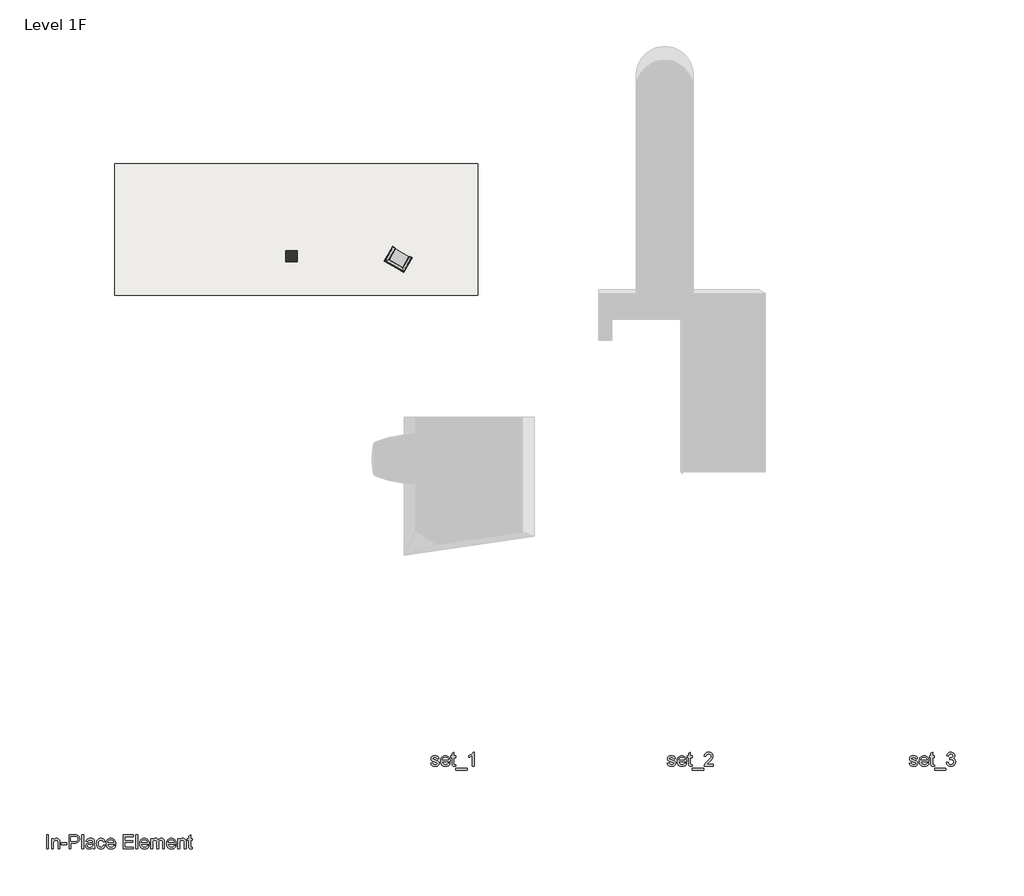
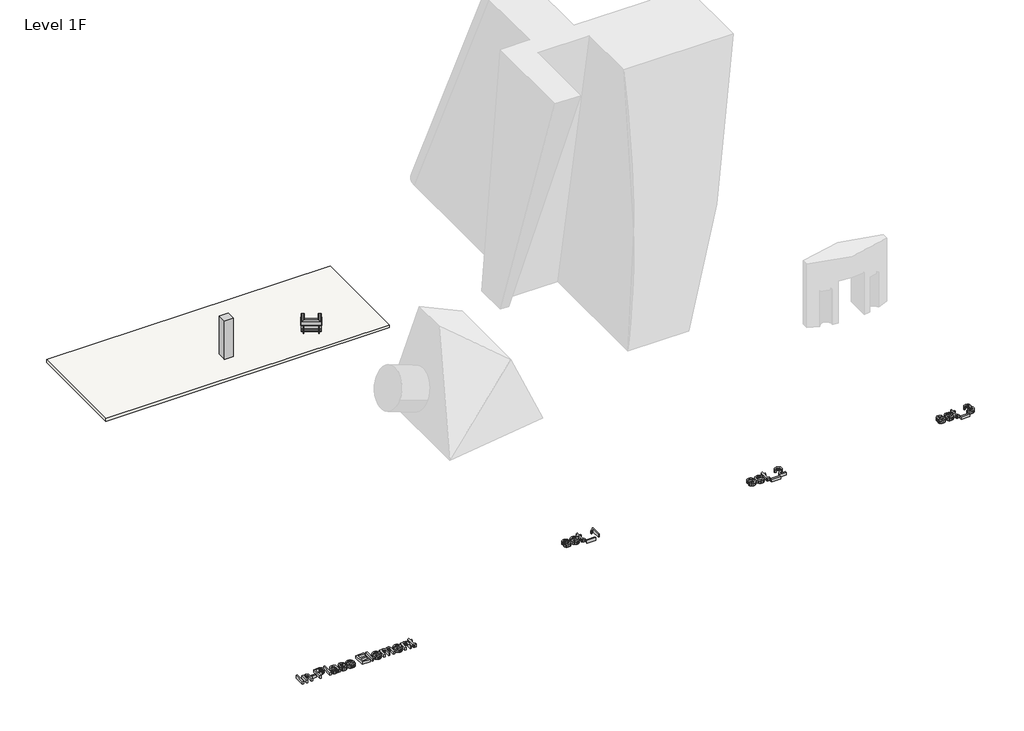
# One storey, part 1 of 2: 4 proxies, 1 column, 1 furniture element, 1 slab.
"""IFC4 building model written with IfcOpenShell, lengths in millimetres."""

from ifc_helpers import new_model, si_unit, frame, origin, place, context, project, spatial, polyline, outline, extrude, transform, mapped, element, save
from components import m_chair_corbu_m_chair_corbu_62085674

model = new_model("IFC4")

# Units and contexts
model_context = context("Model", 3, world=origin())
ifc_project = project(units=[si_unit("LENGTHUNIT", "METRE", prefix="MILLI")], contexts=[model_context])

# Site, building, storey
site = spatial("IfcSite", under=ifc_project)
building = spatial("IfcBuilding", under=site)
storey = spatial("IfcBuildingStorey", under=building, Name="Level 1F", Elevation=100.0)

# Proxies
placement = place(None, origin())
element("IfcBuildingElementProxy", 1, Name="600mm Arial", ObjectType="600mm Arial", at=placement, inside=storey, context=model_context, shape_type="SweptSolid", body=[
    extrude(outline(polyline([(5751.7474267, -32429.7363804), (5825.5935805, -32420.5056111), (5830.0557199, -32437.3445535), (5837.2402151, -32452.0921496), (5847.1470661, -32464.7483996), (5859.7762728, -32475.3133035), (5875.163893, -32483.6426304), (5893.3459844, -32489.5921496), (5938.0935805, -32494.351765), (5982.3003113, -32489.9887842), (5999.4818017, -32484.5350583), (6013.382042, -32476.8998419), (6031.7714651, -32457.9334958), (6037.9012728, -32435.9383035), (6036.3598065, -32425.9683515), (6031.7354074, -32417.1161881), (6013.2378113, -32402.7652265), (5985.5815613, -32393.3902265), (5937.2281959, -32381.7075342), (5869.836369, -32362.2183515), (5826.0262728, -32345.5777265), (5797.883244, -32327.4226785), (5777.492619, -32303.3902265), (5765.1068017, -32275.0128227), (5760.9781959, -32243.8229188), (5764.2955036, -32215.21114), (5774.2474267, -32188.7988804), (5789.9325228, -32165.6318131), (5810.4493497, -32146.7556111), (5830.8399747, -32134.8746015), (5857.3964651, -32124.9046496), (5888.0995901, -32118.1438323), (5920.930119, -32115.8902265), (5968.9950228, -32119.5140246), (6010.7858882, -32130.3854188), (6044.3916574, -32147.4407073), (6067.9012728, -32169.6161881), (6083.4781959, -32198.5524861), (6093.2858882, -32235.8902265), (6019.4397344, -32245.1209958), (6010.1188209, -32221.8818131), (5991.6753113, -32204.3758035), (5963.928917, -32193.3962361), (5926.6993497, -32189.7363804), (5884.2955036, -32193.2339765), (5856.0262728, -32203.726765), (5840.1248305, -32218.8709958), (5834.8243497, -32236.3229188), (5837.023869, -32247.6810919), (5843.6224267, -32257.8133035), (5854.9084844, -32266.8637842), (5871.1705036, -32274.1113804), (5934.7762728, -32289.8325342), (6043.1656959, -32324.5921496), (6071.7955036, -32341.2147458), (6093.5022344, -32363.9671496), (6107.1861286, -32392.9214765), (6111.7474267, -32428.1498419), (6106.3928594, -32464.5681111), (6090.3291574, -32498.8229188), (6064.1693017, -32528.2279669), (6028.5262728, -32550.0969573), (5985.4733882, -32563.6726785), (5937.0839651, -32568.1979188), (5897.3393738, -32566.0164285), (5862.6248305, -32559.4719573), (5832.9403353, -32548.5645054), (5808.2858882, -32533.2940727), (5788.147667, -32513.7327746), (5772.0118497, -32489.9527265), (5759.8784363, -32461.9539285), (5751.7474267, -32429.7363804)])), frame((0.0, 0.0, 100.0), z_axis=(0.0, 0.0, 1.0), x_axis=(1.0, 0.0, 0.0)), (0.0, 0.0, 1.0), 150.0),
    extrude(outline(polyline([(6498.5743497, -32429.7363804), (6570.9781959, -32438.9671496), (6559.8769339, -32467.9665486), (6544.8904555, -32493.5224381), (6526.0187608, -32515.6348179), (6503.2618497, -32534.3036881), (6476.8540973, -32549.132414), (6447.0298786, -32559.7243611), (6413.7891935, -32566.0795294), (6377.132042, -32568.1979188), (6331.3117295, -32564.5425703), (6290.4854074, -32553.5765246), (6254.6530757, -32535.2997818), (6223.8147344, -32509.7123419), (6199.0160565, -32477.5263443), (6181.3027151, -32439.4539285), (6170.6747103, -32395.4950943), (6167.132042, -32345.6498419), (6170.710768, -32294.1143852), (6181.4469459, -32248.6907073), (6199.3405757, -32209.3788083), (6224.3916574, -32176.1786881), (6255.148869, -32149.8024861), (6290.1608882, -32130.9623419), (6329.4277151, -32119.6582554), (6372.9493497, -32115.8902265), (6415.0692416, -32119.649241), (6453.1596863, -32130.9262842), (6487.2206839, -32149.7213563), (6517.2522344, -32176.0344573), (6541.7669579, -32209.1624621), (6559.2774747, -32248.4022458), (6569.7837848, -32293.7538083), (6573.2858882, -32345.2171496), (6572.8531959, -32365.1209958), (6240.9781959, -32365.1209958), (6245.2555396, -32394.5891448), (6253.7606478, -32420.3974381), (6266.4935204, -32442.5458756), (6283.4541574, -32461.0344573), (6303.7050589, -32475.6107794), (6326.3087247, -32486.0224381), (6351.265155, -32492.2694333), (6378.5743497, -32494.351765), (6417.8772344, -32490.4935919), (6450.9781959, -32478.9190727), (6477.8772344, -32458.9070535), (6498.5743497, -32429.7363804)]), holes=[polyline([(6240.9781959, -32291.2748419), (6499.4397344, -32291.2748419), (6489.4517536, -32252.2604188), (6480.8610084, -32236.9178708), (6469.8724267, -32224.351765), (6449.7342055, -32209.2075342), (6426.819542, -32198.3902265), (6401.1284363, -32191.8998419), (6372.6608882, -32189.7363804), (6346.6948425, -32191.4626424), (6322.883244, -32196.6414285), (6301.2260925, -32205.2727385), (6281.7233882, -32217.3565727), (6265.3577031, -32232.3340366), (6253.1116094, -32249.6462361), (6244.9851069, -32269.2931712), (6240.9781959, -32291.2748419)])]), frame((0.0, 0.0, 100.0), z_axis=(0.0, 0.0, 1.0), x_axis=(1.0, 0.0, 0.0)), (0.0, 0.0, 1.0), 150.0),
    extrude(outline(polyline([(6804.055119, -32497.3806111), (6813.2858882, -32561.1306111), (6758.0455036, -32568.1979188), (6722.600792, -32565.133015), (6696.1705036, -32555.9383035), (6677.492619, -32541.7676304), (6665.305119, -32523.7748419), (6658.5983882, -32492.8733996), (6656.3628113, -32439.976765), (6656.3628113, -32198.9671496), (6600.9781959, -32198.9671496), (6600.9781959, -32125.1209958), (6656.3628113, -32125.1209958), (6656.3628113, -32019.6883035), (6730.2089651, -31976.2748419), (6730.2089651, -32125.1209958), (6804.055119, -32125.1209958), (6804.055119, -32198.9671496), (6730.2089651, -32198.9671496), (6730.2089651, -32437.8133035), (6734.1031959, -32475.8902265), (6746.7233882, -32489.3758035), (6757.3784363, -32493.1077746), (6771.8916574, -32494.351765), (6804.055119, -32497.3806111)])), frame((0.0, 0.0, 100.0), z_axis=(0.0, 0.0, 1.0), x_axis=(1.0, 0.0, 0.0)), (0.0, 0.0, 1.0), 150.0),
    extrude(outline(polyline([(6813.2858882, -32725.1209958), (6813.2858882, -32651.2748419), (7293.2858882, -32651.2748419), (7293.2858882, -32725.1209958), (6813.2858882, -32725.1209958)])), frame((0.0, 0.0, 100.0), z_axis=(0.0, 0.0, 1.0), x_axis=(1.0, 0.0, 0.0)), (0.0, 0.0, 1.0), 150.0),
    extrude(outline(polyline([(7588.6705036, -32558.9671496), (7514.8243497, -32558.9671496), (7514.8243497, -32098.5825342), (7483.9950228, -32123.5164285), (7444.8724267, -32148.414265), (7403.8027151, -32170.1750823), (7367.132042, -32185.6979188), (7367.132042, -32115.8902265), (7425.1308401, -32084.3397458), (7475.3772344, -32046.8036881), (7514.9866094, -32006.8878227), (7541.0743497, -31968.1979188), (7588.6705036, -31968.1979188), (7588.6705036, -32558.9671496)])), frame((0.0, 0.0, 100.0), z_axis=(0.0, 0.0, 1.0), x_axis=(1.0, 0.0, 0.0)), (0.0, 0.0, 1.0), 150.0),
])
element("IfcBuildingElementProxy", 2, Name="600mm Arial", ObjectType="600mm Arial", at=placement, inside=storey, context=model_context, shape_type="SweptSolid", body=[
    extrude(outline(polyline([(15731.4231404, -32429.7363804), (15805.2692942, -32420.5056111), (15809.7314337, -32437.3445535), (15816.9159289, -32452.0921496), (15826.8227798, -32464.7483996), (15839.4519865, -32475.3133035), (15854.8396067, -32483.6426304), (15873.0216981, -32489.5921496), (15917.7692942, -32494.351765), (15961.976025, -32489.9887842), (15979.1575154, -32484.5350583), (15993.0577558, -32476.8998419), (16011.4471789, -32457.9334958), (16017.5769865, -32435.9383035), (16016.0355202, -32425.9683515), (16011.4111212, -32417.1161881), (15992.913525, -32402.7652265), (15965.257275, -32393.3902265), (15916.9039096, -32381.7075342), (15849.5120827, -32362.2183515), (15805.7019865, -32345.5777265), (15777.5589577, -32327.4226785), (15757.1683327, -32303.3902265), (15744.7825154, -32275.0128227), (15740.6539096, -32243.8229188), (15743.9712173, -32215.21114), (15753.9231404, -32188.7988804), (15769.6082365, -32165.6318131), (15790.1250635, -32146.7556111), (15810.5156885, -32134.8746015), (15837.0721789, -32124.9046496), (15867.7753039, -32118.1438323), (15900.6058327, -32115.8902265), (15948.6707365, -32119.5140246), (15990.4616019, -32130.3854188), (16024.0673712, -32147.4407073), (16047.5769865, -32169.6161881), (16063.1539096, -32198.5524861), (16072.9616019, -32235.8902265), (15999.1154481, -32245.1209958), (15989.7945346, -32221.8818131), (15971.351025, -32204.3758035), (15943.6046308, -32193.3962361), (15906.3750635, -32189.7363804), (15863.9712173, -32193.2339765), (15835.7019865, -32203.726765), (15819.8005442, -32218.8709958), (15814.5000635, -32236.3229188), (15816.6995827, -32247.6810919), (15823.2981404, -32257.8133035), (15834.5841981, -32266.8637842), (15850.8462173, -32274.1113804), (15914.4519865, -32289.8325342), (16022.8414096, -32324.5921496), (16051.4712173, -32341.2147458), (16073.1779481, -32363.9671496), (16086.8618423, -32392.9214765), (16091.4231404, -32428.1498419), (16086.0685731, -32464.5681111), (16070.0048712, -32498.8229188), (16043.8450154, -32528.2279669), (16008.2019865, -32550.0969573), (15965.1491019, -32563.6726785), (15916.7596789, -32568.1979188), (15877.0150875, -32566.0164285), (15842.3005442, -32559.4719573), (15812.616049, -32548.5645054), (15787.9616019, -32533.2940727), (15767.8233808, -32513.7327746), (15751.6875635, -32489.9527265), (15739.55415, -32461.9539285), (15731.4231404, -32429.7363804)])), frame((0.0, 0.0, 100.0), z_axis=(0.0, 0.0, 1.0), x_axis=(1.0, 0.0, 0.0)), (0.0, 0.0, 1.0), 150.0),
    extrude(outline(polyline([(16478.2500635, -32429.7363804), (16550.6539096, -32438.9671496), (16539.5526476, -32467.9665486), (16524.5661692, -32493.5224381), (16505.6944745, -32515.6348179), (16482.9375635, -32534.3036881), (16456.5298111, -32549.132414), (16426.7055923, -32559.7243611), (16393.4649072, -32566.0795294), (16356.8077558, -32568.1979188), (16310.9874433, -32564.5425703), (16270.1611212, -32553.5765246), (16234.3287894, -32535.2997818), (16203.4904481, -32509.7123419), (16178.6917702, -32477.5263443), (16160.9784289, -32439.4539285), (16150.350424, -32395.4950943), (16146.8077558, -32345.6498419), (16150.3864817, -32294.1143852), (16161.1226596, -32248.6907073), (16179.0162894, -32209.3788083), (16204.0673712, -32176.1786881), (16234.8245827, -32149.8024861), (16269.8366019, -32130.9623419), (16309.1034289, -32119.6582554), (16352.6250635, -32115.8902265), (16394.7449553, -32119.649241), (16432.8354, -32130.9262842), (16466.8963976, -32149.7213563), (16496.9279481, -32176.0344573), (16521.4426716, -32209.1624621), (16538.9531885, -32248.4022458), (16549.4594986, -32293.7538083), (16552.9616019, -32345.2171496), (16552.5289096, -32365.1209958), (16220.6539096, -32365.1209958), (16224.9312534, -32394.5891448), (16233.4363615, -32420.3974381), (16246.1692341, -32442.5458756), (16263.1298712, -32461.0344573), (16283.3807726, -32475.6107794), (16305.9844385, -32486.0224381), (16330.9408688, -32492.2694333), (16358.2500635, -32494.351765), (16397.5529481, -32490.4935919), (16430.6539096, -32478.9190727), (16457.5529481, -32458.9070535), (16478.2500635, -32429.7363804)]), holes=[polyline([(16220.6539096, -32291.2748419), (16479.1154481, -32291.2748419), (16469.1274673, -32252.2604188), (16460.5367221, -32236.9178708), (16449.5481404, -32224.351765), (16429.4099192, -32209.2075342), (16406.4952558, -32198.3902265), (16380.80415, -32191.8998419), (16352.3366019, -32189.7363804), (16326.3705563, -32191.4626424), (16302.5589577, -32196.6414285), (16280.9018063, -32205.2727385), (16261.3991019, -32217.3565727), (16245.0334168, -32232.3340366), (16232.7873231, -32249.6462361), (16224.6608207, -32269.2931712), (16220.6539096, -32291.2748419)])]), frame((0.0, 0.0, 100.0), z_axis=(0.0, 0.0, 1.0), x_axis=(1.0, 0.0, 0.0)), (0.0, 0.0, 1.0), 150.0),
    extrude(outline(polyline([(16783.7308327, -32497.3806111), (16792.9616019, -32561.1306111), (16737.7212173, -32568.1979188), (16702.2765058, -32565.133015), (16675.8462173, -32555.9383035), (16657.1683327, -32541.7676304), (16644.9808327, -32523.7748419), (16638.2741019, -32492.8733996), (16636.038525, -32439.976765), (16636.038525, -32198.9671496), (16580.6539096, -32198.9671496), (16580.6539096, -32125.1209958), (16636.038525, -32125.1209958), (16636.038525, -32019.6883035), (16709.8846789, -31976.2748419), (16709.8846789, -32125.1209958), (16783.7308327, -32125.1209958), (16783.7308327, -32198.9671496), (16709.8846789, -32198.9671496), (16709.8846789, -32437.8133035), (16713.7789096, -32475.8902265), (16726.3991019, -32489.3758035), (16737.05415, -32493.1077746), (16751.5673712, -32494.351765), (16783.7308327, -32497.3806111)])), frame((0.0, 0.0, 100.0), z_axis=(0.0, 0.0, 1.0), x_axis=(1.0, 0.0, 0.0)), (0.0, 0.0, 1.0), 150.0),
    extrude(outline(polyline([(16792.9616019, -32725.1209958), (16792.9616019, -32651.2748419), (17272.9616019, -32651.2748419), (17272.9616019, -32725.1209958), (16792.9616019, -32725.1209958)])), frame((0.0, 0.0, 100.0), z_axis=(0.0, 0.0, 1.0), x_axis=(1.0, 0.0, 0.0)), (0.0, 0.0, 1.0), 150.0),
    extrude(outline(polyline([(17669.8846789, -32485.1209958), (17669.8846789, -32558.9671496), (17282.1923712, -32558.9671496), (17283.8149673, -32532.9695535), (17290.1250635, -32508.0536881), (17308.3341981, -32468.2640246), (17334.9808327, -32429.664265), (17373.5265058, -32389.2616208), (17427.4327558, -32344.0633035), (17507.1202558, -32273.2820535), (17554.9327558, -32221.0344573), (17568.8780683, -32199.6883035), (17578.8390058, -32178.6306111), (17584.8155683, -32157.8613804), (17586.8077558, -32137.3806111), (17584.9282486, -32118.1122818), (17579.2897269, -32100.4034477), (17569.8921909, -32084.2541087), (17556.7356404, -32069.664265), (17540.5502438, -32057.5804309), (17522.0661692, -32048.9491208), (17501.2834168, -32043.7703347), (17478.2019865, -32042.0440727), (17453.8855803, -32043.7297698), (17432.1382846, -32048.7868611), (17412.9600995, -32057.2153467), (17396.351025, -32069.0152265), (17382.9150274, -32083.789866), (17373.2560731, -32101.1426304), (17367.374162, -32121.0735198), (17365.2692942, -32143.5825342), (17291.4231404, -32134.351765), (17297.7738015, -32096.2297698), (17309.3257846, -32062.9214765), (17326.0790899, -32034.4268852), (17348.0337173, -32010.7459958), (17374.6848591, -31992.1312121), (17405.5277077, -31978.8349381), (17440.562263, -31970.8571736), (17479.788525, -31968.1979188), (17519.3663495, -31971.1546496), (17554.5902077, -31980.0248419), (17585.4600995, -31994.8084958), (17611.976025, -32015.5056111), (17633.2725995, -32040.5837361), (17648.4844385, -32068.5104188), (17657.6115418, -32099.2856592), (17660.6539096, -32132.9094573), (17657.3726596, -32168.2279669), (17647.5289096, -32202.9334958), (17630.0589577, -32238.2339765), (17603.8991019, -32275.3373419), (17562.1983808, -32319.6342169), (17498.1058327, -32376.5152265), (17413.1539096, -32447.5488804), (17379.8366019, -32485.1209958), (17669.8846789, -32485.1209958)])), frame((0.0, 0.0, 100.0), z_axis=(0.0, 0.0, 1.0), x_axis=(1.0, 0.0, 0.0)), (0.0, 0.0, 1.0), 150.0),
])
element("IfcBuildingElementProxy", 3, Name="600mm Arial", ObjectType="600mm Arial", at=placement, inside=storey, context=model_context, shape_type="SweptSolid", body=[
    extrude(outline(polyline([(25945.4291985, -32429.7363804), (26019.2753523, -32420.5056111), (26023.7374918, -32437.3445535), (26030.921987, -32452.0921496), (26040.8288379, -32464.7483996), (26053.4580446, -32475.3133035), (26068.8456648, -32483.6426304), (26087.0277562, -32489.5921496), (26131.7753523, -32494.351765), (26175.9820831, -32489.9887842), (26193.1635735, -32484.5350583), (26207.0638139, -32476.8998419), (26225.453237, -32457.9334958), (26231.5830446, -32435.9383035), (26230.0415783, -32425.9683515), (26225.4171793, -32417.1161881), (26206.9195831, -32402.7652265), (26179.2633331, -32393.3902265), (26130.9099677, -32381.7075342), (26063.5181408, -32362.2183515), (26019.7080446, -32345.5777265), (25991.5650158, -32327.4226785), (25971.1743908, -32303.3902265), (25958.7885735, -32275.0128227), (25954.6599677, -32243.8229188), (25957.9772754, -32215.21114), (25967.9291985, -32188.7988804), (25983.6142946, -32165.6318131), (26004.1311216, -32146.7556111), (26024.5217466, -32134.8746015), (26051.078237, -32124.9046496), (26081.781362, -32118.1438323), (26114.6118908, -32115.8902265), (26162.6767946, -32119.5140246), (26204.46766, -32130.3854188), (26238.0734293, -32147.4407073), (26261.5830446, -32169.6161881), (26277.1599677, -32198.5524861), (26286.96766, -32235.8902265), (26213.1215062, -32245.1209958), (26203.8005927, -32221.8818131), (26185.3570831, -32204.3758035), (26157.6106889, -32193.3962361), (26120.3811216, -32189.7363804), (26077.9772754, -32193.2339765), (26049.7080446, -32203.726765), (26033.8066023, -32218.8709958), (26028.5061216, -32236.3229188), (26030.7056408, -32247.6810919), (26037.3041985, -32257.8133035), (26048.5902562, -32266.8637842), (26064.8522754, -32274.1113804), (26128.4580446, -32289.8325342), (26236.8474677, -32324.5921496), (26265.4772754, -32341.2147458), (26287.1840062, -32363.9671496), (26300.8679004, -32392.9214765), (26305.4291985, -32428.1498419), (26300.0746312, -32464.5681111), (26284.0109293, -32498.8229188), (26257.8510735, -32528.2279669), (26222.2080446, -32550.0969573), (26179.15516, -32563.6726785), (26130.765737, -32568.1979188), (26091.0211456, -32566.0164285), (26056.3066023, -32559.4719573), (26026.6221071, -32548.5645054), (26001.96766, -32533.2940727), (25981.8294389, -32513.7327746), (25965.6936216, -32489.9527265), (25953.5602081, -32461.9539285), (25945.4291985, -32429.7363804)])), frame((0.0, 0.0, 100.0), z_axis=(0.0, 0.0, 1.0), x_axis=(1.0, 0.0, 0.0)), (0.0, 0.0, 1.0), 150.0),
    extrude(outline(polyline([(26692.2561216, -32429.7363804), (26764.6599677, -32438.9671496), (26753.5587057, -32467.9665486), (26738.5722273, -32493.5224381), (26719.7005326, -32515.6348179), (26696.9436216, -32534.3036881), (26670.5358692, -32549.132414), (26640.7116504, -32559.7243611), (26607.4709653, -32566.0795294), (26570.8138139, -32568.1979188), (26524.9935014, -32564.5425703), (26484.1671793, -32553.5765246), (26448.3348475, -32535.2997818), (26417.4965062, -32509.7123419), (26392.6978283, -32477.5263443), (26374.984487, -32439.4539285), (26364.3564821, -32395.4950943), (26360.8138139, -32345.6498419), (26364.3925398, -32294.1143852), (26375.1287177, -32248.6907073), (26393.0223475, -32209.3788083), (26418.0734293, -32176.1786881), (26448.8306408, -32149.8024861), (26483.84266, -32130.9623419), (26523.109487, -32119.6582554), (26566.6311216, -32115.8902265), (26608.7510134, -32119.649241), (26646.8414581, -32130.9262842), (26680.9024557, -32149.7213563), (26710.9340062, -32176.0344573), (26735.4487297, -32209.1624621), (26752.9592466, -32248.4022458), (26763.4655567, -32293.7538083), (26766.96766, -32345.2171496), (26766.5349677, -32365.1209958), (26434.6599677, -32365.1209958), (26438.9373115, -32394.5891448), (26447.4424196, -32420.3974381), (26460.1752922, -32442.5458756), (26477.1359293, -32461.0344573), (26497.3868307, -32475.6107794), (26519.9904966, -32486.0224381), (26544.9469269, -32492.2694333), (26572.2561216, -32494.351765), (26611.5590062, -32490.4935919), (26644.6599677, -32478.9190727), (26671.5590062, -32458.9070535), (26692.2561216, -32429.7363804)]), holes=[polyline([(26434.6599677, -32291.2748419), (26693.1215062, -32291.2748419), (26683.1335254, -32252.2604188), (26674.5427802, -32236.9178708), (26663.5541985, -32224.351765), (26643.4159773, -32209.2075342), (26620.5013139, -32198.3902265), (26594.8102081, -32191.8998419), (26566.34266, -32189.7363804), (26540.3766144, -32191.4626424), (26516.5650158, -32196.6414285), (26494.9078644, -32205.2727385), (26475.40516, -32217.3565727), (26459.0394749, -32232.3340366), (26446.7933812, -32249.6462361), (26438.6668788, -32269.2931712), (26434.6599677, -32291.2748419)])]), frame((0.0, 0.0, 100.0), z_axis=(0.0, 0.0, 1.0), x_axis=(1.0, 0.0, 0.0)), (0.0, 0.0, 1.0), 150.0),
    extrude(outline(polyline([(26997.7368908, -32497.3806111), (27006.96766, -32561.1306111), (26951.7272754, -32568.1979188), (26916.2825639, -32565.133015), (26889.8522754, -32555.9383035), (26871.1743908, -32541.7676304), (26858.9868908, -32523.7748419), (26852.28016, -32492.8733996), (26850.0445831, -32439.976765), (26850.0445831, -32198.9671496), (26794.6599677, -32198.9671496), (26794.6599677, -32125.1209958), (26850.0445831, -32125.1209958), (26850.0445831, -32019.6883035), (26923.890737, -31976.2748419), (26923.890737, -32125.1209958), (26997.7368908, -32125.1209958), (26997.7368908, -32198.9671496), (26923.890737, -32198.9671496), (26923.890737, -32437.8133035), (26927.7849677, -32475.8902265), (26940.40516, -32489.3758035), (26951.0602081, -32493.1077746), (26965.5734293, -32494.351765), (26997.7368908, -32497.3806111)])), frame((0.0, 0.0, 100.0), z_axis=(0.0, 0.0, 1.0), x_axis=(1.0, 0.0, 0.0)), (0.0, 0.0, 1.0), 150.0),
    extrude(outline(polyline([(27006.96766, -32725.1209958), (27006.96766, -32651.2748419), (27486.96766, -32651.2748419), (27486.96766, -32725.1209958), (27006.96766, -32725.1209958)])), frame((0.0, 0.0, 100.0), z_axis=(0.0, 0.0, 1.0), x_axis=(1.0, 0.0, 0.0)), (0.0, 0.0, 1.0), 150.0),
    extrude(outline(polyline([(27505.4291985, -32402.0440727), (27579.2753523, -32392.8133035), (27595.8078043, -32439.2195535), (27606.9541384, -32456.7706352), (27620.0205446, -32470.5536881), (27635.304499, -32480.9653467), (27653.1034773, -32488.4022458), (27673.4174797, -32492.8643852), (27696.2465062, -32494.351765), (27723.0013139, -32492.305491), (27746.8715062, -32486.1666688), (27767.8570831, -32475.9352986), (27785.9580446, -32461.6113804), (27800.5343668, -32444.2676304), (27810.9460254, -32424.976765), (27817.1930206, -32403.7387842), (27819.2753523, -32380.5536881), (27817.2110495, -32358.4728587), (27811.0181408, -32338.3842169), (27800.6966264, -32320.2877626), (27786.2465062, -32304.1834958), (27768.6142946, -32290.9638443), (27748.7465062, -32281.5212361), (27726.6431408, -32275.8556712), (27702.3041985, -32273.9671496), (27678.9748716, -32275.9863804), (27650.5253523, -32282.0440727), (27658.7465062, -32208.1979188), (27670.5734293, -32209.0633035), (27714.8162177, -32203.7628227), (27754.3715062, -32187.8613804), (27770.6515543, -32175.83614), (27782.28016, -32160.9623419), (27789.2573235, -32143.2399861), (27791.5830446, -32122.6690727), (27789.8973475, -32105.9698539), (27784.8402562, -32090.7760438), (27776.4117706, -32077.0876424), (27764.6118908, -32064.9046496), (27750.1527562, -32054.9031472), (27733.7465062, -32047.7592169), (27695.09266, -32042.0440727), (27656.3666985, -32047.8133035), (27639.6539581, -32055.0248419), (27624.7080446, -32065.1209958), (27611.8985495, -32078.101765), (27601.5950639, -32093.9671496), (27593.7975879, -32112.7171496), (27588.5061216, -32134.351765), (27514.6599677, -32125.1209958), (27523.4129725, -32089.8655871), (27536.4027562, -32058.8108996), (27553.6293187, -32031.9569333), (27575.09266, -32009.3036881), (27600.1166985, -31991.319914), (27628.0253523, -31978.4743611), (27658.8186216, -31970.7670294), (27692.4965062, -31968.1979188), (27738.920785, -31973.2640246), (27781.5590062, -31988.4623419), (27817.5085254, -32012.4407073), (27843.8666985, -32043.8469573), (27860.0385735, -32080.0308515), (27865.4291985, -32118.3421496), (27860.3090062, -32154.039265), (27844.9484293, -32186.4190727), (27819.5638139, -32214.0032073), (27784.3715062, -32235.3133035), (27808.9808812, -32243.0116208), (27830.5974677, -32253.9911881), (27849.2212658, -32268.2520054), (27864.8522754, -32285.7940727), (27877.2200639, -32306.1846977), (27886.0541985, -32328.9911881), (27891.3546793, -32354.2135438), (27893.1215062, -32381.851765), (27889.5878523, -32419.3157073), (27878.9868908, -32453.8229188), (27861.3186216, -32485.3733996), (27836.5830446, -32513.9671496), (27806.4478283, -32537.6931111), (27772.5806408, -32554.6402265), (27734.9814821, -32564.8084958), (27693.6503523, -32568.1979188), (27656.2945831, -32565.304289), (27622.2561216, -32556.6233996), (27591.5349677, -32542.1552506), (27564.1311216, -32521.8998419), (27541.1533571, -32497.0470775), (27523.7104485, -32468.7868611), (27511.8023956, -32437.1191929), (27505.4291985, -32402.0440727)])), frame((0.0, 0.0, 100.0), z_axis=(0.0, 0.0, 1.0), x_axis=(1.0, 0.0, 0.0)), (0.0, 0.0, 1.0), 150.0),
])
element("IfcBuildingElementProxy", 4, Name="600mm Arial", ObjectType="600mm Arial", at=placement, inside=storey, context=model_context, shape_type="SweptSolid", body=[
    extrude(outline(polyline([(-10454.5231566, -36042.9990471), (-10454.5231566, -35452.2298163), (-10380.6770028, -35452.2298163), (-10380.6770028, -36042.9990471), (-10454.5231566, -36042.9990471)])), frame((0.0, 0.0, 100.0), z_axis=(0.0, 0.0, 1.0), x_axis=(1.0, 0.0, 0.0)), (0.0, 0.0, 1.0), 150.0),
    extrude(outline(polyline([(-10242.2154643, -36042.9990471), (-10242.2154643, -35609.1528932), (-10168.3693105, -35609.1528932), (-10168.3693105, -35669.7298163), (-10142.7142624, -35639.1889509), (-10111.9029643, -35617.3740471), (-10075.9354162, -35604.2851048), (-10034.8116182, -35599.922124), (-9998.4113778, -35603.437749), (-9965.0760412, -35613.984624), (-9937.2755605, -35630.2466432), (-9917.4798874, -35650.9077009), (-9904.048397, -35675.9137106), (-9895.3404643, -35705.2105856), (-9891.4462335, -35776.6048163), (-9891.4462335, -36042.9990471), (-9965.2923874, -36042.9990471), (-9965.2923874, -35786.5567394), (-9967.4197912, -35748.3716432), (-9973.8020028, -35721.2202009), (-9985.5748393, -35701.7670759), (-10003.8741182, -35686.6769317), (-10027.329647, -35676.9954413), (-10054.5712335, -35673.7682779), (-10076.9946109, -35675.5801769), (-10097.8224355, -35681.015874), (-10117.0547071, -35690.0753692), (-10134.6914258, -35702.7586625), (-10149.4255004, -35720.5080615), (-10159.9498393, -35744.765874), (-10166.2644427, -35775.5321), (-10168.3693105, -35812.8067394), (-10168.3693105, -36042.9990471), (-10242.2154643, -36042.9990471)])), frame((0.0, 0.0, 100.0), z_axis=(0.0, 0.0, 1.0), x_axis=(1.0, 0.0, 0.0)), (0.0, 0.0, 1.0), 150.0),
    extrude(outline(polyline([(-9826.8308489, -35867.6144317), (-9826.8308489, -35793.7682779), (-9596.0616182, -35793.7682779), (-9596.0616182, -35867.6144317), (-9826.8308489, -35867.6144317)])), frame((0.0, 0.0, 100.0), z_axis=(0.0, 0.0, 1.0), x_axis=(1.0, 0.0, 0.0)), (0.0, 0.0, 1.0), 150.0),
    extrude(outline(polyline([(-9503.7539258, -36042.9990471), (-9503.7539258, -35452.2298163), (-9284.8116182, -35452.2298163), (-9233.8260412, -35453.6360663), (-9196.5423874, -35457.8548163), (-9157.1854162, -35468.3656336), (-9124.7875797, -35485.4750086), (-9098.6998393, -35509.9581817), (-9078.2731566, -35542.5903932), (-9065.0760412, -35581.0819798), (-9060.6770028, -35623.1432779), (-9063.6472552, -35659.4083019), (-9072.5580124, -35692.7706817), (-9087.4092744, -35723.2304173), (-9108.2010412, -35750.7875086), (-9136.7452119, -35773.6300567), (-9174.8536855, -35789.9461625), (-9222.5264619, -35799.7358259), (-9279.7635412, -35802.9990471), (-9429.907772, -35802.9990471), (-9429.907772, -36042.9990471), (-9503.7539258, -36042.9990471)]), holes=[polyline([(-9429.907772, -35729.1528932), (-9275.4366182, -35729.1528932), (-9239.9197912, -35727.4581817), (-9209.9558489, -35722.3740471), (-9185.5447912, -35713.9004894), (-9166.6866182, -35702.0375086), (-9152.6151037, -35687.1006096), (-9142.564022, -35669.4052971), (-9136.533373, -35648.9515711), (-9134.5231566, -35625.7394317), (-9139.2647432, -35592.5663548), (-9153.4895028, -35564.5855856), (-9175.4306085, -35543.5278932), (-9203.3212335, -35531.1240471), (-9231.8068105, -35527.3379894), (-9277.1673874, -35526.0759702), (-9429.907772, -35526.0759702), (-9429.907772, -35729.1528932)])]), frame((0.0, 0.0, 100.0), z_axis=(0.0, 0.0, 1.0), x_axis=(1.0, 0.0, 0.0)), (0.0, 0.0, 1.0), 150.0),
    extrude(outline(polyline([(-8968.3693105, -36042.9990471), (-8968.3693105, -35452.2298163), (-8894.5231566, -35452.2298163), (-8894.5231566, -36042.9990471), (-8968.3693105, -36042.9990471)])), frame((0.0, 0.0, 100.0), z_axis=(0.0, 0.0, 1.0), x_axis=(1.0, 0.0, 0.0)), (0.0, 0.0, 1.0), 150.0),
    extrude(outline(polyline([(-8506.8308489, -35987.6144317), (-8542.1133008, -36017.8668356), (-8578.4414258, -36037.6625086), (-8616.6445508, -36048.5879894), (-8657.5520028, -36052.2298163), (-8690.4321109, -36050.0393115), (-8719.2647432, -36043.4677971), (-8744.0498994, -36032.5152731), (-8764.7875797, -36017.1817394), (-8781.1622792, -35998.4407538), (-8792.8584932, -35977.265874), (-8799.8762215, -35953.6571), (-8802.2154643, -35927.6144317), (-8798.6818105, -35897.0014509), (-8788.0808489, -35869.2009702), (-8771.7286855, -35845.4028932), (-8750.9414258, -35826.797124), (-8726.5123393, -35812.734624), (-8699.2346951, -35802.5663548), (-8635.3404643, -35791.4605856), (-8559.8356566, -35779.7778932), (-8507.2635412, -35766.0759702), (-8506.8308489, -35749.6336625), (-8511.9149835, -35716.6769317), (-8518.2701518, -35704.4714029), (-8527.1673874, -35695.1144317), (-8542.5459932, -35685.7754894), (-8561.2779643, -35679.1048163), (-8608.8020028, -35673.7682779), (-8652.7923874, -35677.3199606), (-8683.5135412, -35687.9750086), (-8704.4630605, -35707.6805375), (-8719.1385412, -35738.3836625), (-8792.9846951, -35729.1528932), (-8780.1661855, -35688.7682779), (-8761.0375797, -35657.0375086), (-8733.814022, -35632.7706817), (-8696.7106566, -35614.7778932), (-8651.3320508, -35603.6360663), (-8599.282772, -35599.922124), (-8549.360897, -35603.203374), (-8509.7875797, -35613.047124), (-8479.9498393, -35627.8488067), (-8459.2346951, -35646.0038548), (-8445.4967143, -35668.4497682), (-8436.5904643, -35696.1240471), (-8432.9846951, -35760.7394317), (-8432.9846951, -35852.6144317), (-8429.2346951, -35980.9077009), (-8423.6818105, -36012.6204413), (-8414.5231566, -36042.9990471), (-8488.3693105, -36042.9990471), (-8500.1962335, -36017.3259702), (-8506.8308489, -35987.6144317)]), holes=[polyline([(-8506.8308489, -35839.922124), (-8556.4462335, -35852.2177971), (-8625.9654643, -35862.5663548), (-8689.4991182, -35874.5375086), (-8706.0315701, -35882.7226048), (-8718.2731566, -35894.0086625), (-8725.845272, -35907.5302971), (-8728.3693105, -35922.422124), (-8722.8705124, -35944.3812586), (-8706.3741182, -35962.3740471), (-8679.2407047, -35974.3812586), (-8641.8308489, -35978.3836625), (-8602.1673874, -35973.9665952), (-8567.1193105, -35960.7153932), (-8538.7058489, -35941.1901529), (-8518.9462335, -35917.9509702), (-8510.1842143, -35894.0086625), (-8507.2635412, -35860.8355856), (-8506.8308489, -35839.922124)])]), frame((0.0, 0.0, 100.0), z_axis=(0.0, 0.0, 1.0), x_axis=(1.0, 0.0, 0.0)), (0.0, 0.0, 1.0), 150.0),
    extrude(outline(polyline([(-8054.5231566, -35886.0759702), (-7980.6770028, -35895.3067394), (-7988.7088537, -35930.1519918), (-8001.2659451, -35960.9858259), (-8018.3482768, -35987.8082418), (-8039.9558489, -36010.6192394), (-8065.1782047, -36028.8238668), (-8093.1048874, -36041.8271721), (-8123.735897, -36049.6291553), (-8157.0712335, -36052.2298163), (-8198.4880004, -36048.601511), (-8235.6229162, -36037.7165952), (-8268.4759811, -36019.5750687), (-8297.0471951, -35994.1769317), (-8320.1736975, -35961.9999485), (-8336.6926278, -35923.5218836), (-8346.6039859, -35878.742737), (-8349.907772, -35827.6625086), (-8344.2647432, -35761.9473644), (-8337.2109571, -35732.3755495), (-8327.3356566, -35704.9942394), (-8314.5712335, -35680.3533139), (-8298.8500797, -35659.0026529), (-8280.1721951, -35640.9422562), (-8258.5375797, -35626.172124), (-8234.9242984, -35614.687749), (-8210.3104162, -35606.484624), (-8184.6959331, -35601.562749), (-8158.0808489, -35599.922124), (-8125.3179283, -35602.1757298), (-8095.6830124, -35608.9365471), (-8069.1761013, -35620.2045759), (-8045.7971951, -35635.9798163), (-8025.9429283, -35655.9016913), (-8010.0099355, -35679.609624), (-7997.9982167, -35707.1036144), (-7989.907772, -35738.3836625), (-8063.7539258, -35747.6144317), (-8077.1493585, -35715.3968836), (-8098.0087335, -35692.3019317), (-8125.1782047, -35678.4016913), (-8157.5039258, -35673.7682779), (-8182.5955725, -35676.0489269), (-8205.2262816, -35682.890874), (-8225.3960533, -35694.2941192), (-8243.1048874, -35710.2586625), (-8257.5234571, -35731.1540952), (-8267.8224355, -35757.3500086), (-8274.0018225, -35788.8464029), (-8276.0616182, -35825.6432779), (-8274.0468946, -35862.9945399), (-8268.0027239, -35894.8560182), (-8257.9291061, -35921.227713), (-8243.8260412, -35942.109624), (-8226.4687696, -35957.9795158), (-8206.6325316, -35969.3151529), (-8184.3173273, -35976.1165351), (-8159.5231566, -35978.3836625), (-8121.2839739, -35972.7226048), (-8104.7470148, -35965.6462827), (-8089.9318105, -35955.7394317), (-8077.2530244, -35942.8938788), (-8067.1253201, -35927.0014509), (-8059.5486975, -35908.0621481), (-8054.5231566, -35886.0759702)])), frame((0.0, 0.0, 100.0), z_axis=(0.0, 0.0, 1.0), x_axis=(1.0, 0.0, 0.0)), (0.0, 0.0, 1.0), 150.0),
    extrude(outline(polyline([(-7612.3116182, -35913.7682779), (-7539.907772, -35922.9990471), (-7551.009034, -35951.9984461), (-7565.9955124, -35977.5543356), (-7584.8672071, -35999.6667154), (-7607.6241182, -36018.3355856), (-7634.0318706, -36033.1643115), (-7663.8560893, -36043.7562586), (-7697.0967744, -36050.1114269), (-7733.7539258, -36052.2298163), (-7779.5742383, -36048.5744678), (-7820.4005605, -36037.6084221), (-7856.2328922, -36019.3316793), (-7887.0712335, -35993.7442394), (-7911.8699114, -35961.5582418), (-7929.5832528, -35923.4858259), (-7940.2112576, -35879.5269918), (-7943.7539258, -35829.6817394), (-7940.1751999, -35778.1462827), (-7929.439022, -35732.7226048), (-7911.5453922, -35693.4107057), (-7886.4943105, -35660.2105856), (-7855.7370989, -35633.8343836), (-7820.7250797, -35614.9942394), (-7781.4582528, -35603.6901529), (-7737.9366182, -35599.922124), (-7695.8167263, -35603.6811384), (-7657.7262816, -35614.9581817), (-7623.665284, -35633.7532538), (-7593.6337335, -35660.0663548), (-7569.11901, -35693.1943596), (-7551.6084932, -35732.4341432), (-7541.1021831, -35777.7857057), (-7537.6000797, -35829.2490471), (-7538.032772, -35849.1528932), (-7869.907772, -35849.1528932), (-7865.6304283, -35878.6210423), (-7857.1253201, -35904.4293356), (-7844.3924475, -35926.5777731), (-7827.4318105, -35945.0663548), (-7807.180909, -35959.6426769), (-7784.5772432, -35970.0543356), (-7759.6208129, -35976.3013307), (-7732.3116182, -35978.3836625), (-7693.0087335, -35974.5254894), (-7659.907772, -35962.9509702), (-7633.0087335, -35942.9389509), (-7612.3116182, -35913.7682779)]), holes=[polyline([(-7869.907772, -35775.3067394), (-7611.4462335, -35775.3067394), (-7621.4342143, -35736.2923163), (-7630.0249595, -35720.9497682), (-7641.0135412, -35708.3836625), (-7661.1517624, -35693.2394317), (-7684.0664258, -35682.422124), (-7709.7575316, -35675.9317394), (-7738.2250797, -35673.7682779), (-7764.1911254, -35675.4945399), (-7788.0027239, -35680.6733259), (-7809.6598754, -35689.304636), (-7829.1625797, -35701.3884702), (-7845.5282648, -35716.3659341), (-7857.7743585, -35733.6781336), (-7865.9008609, -35753.3250687), (-7869.907772, -35775.3067394)])]), frame((0.0, 0.0, 100.0), z_axis=(0.0, 0.0, 1.0), x_axis=(1.0, 0.0, 0.0)), (0.0, 0.0, 1.0), 150.0),
    extrude(outline(polyline([(-7223.7539258, -36042.9990471), (-7223.7539258, -35452.2298163), (-6799.1385412, -35452.2298163), (-6799.1385412, -35526.0759702), (-7149.907772, -35526.0759702), (-7149.907772, -35701.4605856), (-6817.6000797, -35701.4605856), (-6817.6000797, -35775.3067394), (-7149.907772, -35775.3067394), (-7149.907772, -35969.1528932), (-6789.907772, -35969.1528932), (-6789.907772, -36042.9990471), (-7223.7539258, -36042.9990471)])), frame((0.0, 0.0, 100.0), z_axis=(0.0, 0.0, 1.0), x_axis=(1.0, 0.0, 0.0)), (0.0, 0.0, 1.0), 150.0),
    extrude(outline(polyline([(-6688.3693105, -36042.9990471), (-6688.3693105, -35452.2298163), (-6614.5231566, -35452.2298163), (-6614.5231566, -36042.9990471), (-6688.3693105, -36042.9990471)])), frame((0.0, 0.0, 100.0), z_axis=(0.0, 0.0, 1.0), x_axis=(1.0, 0.0, 0.0)), (0.0, 0.0, 1.0), 150.0),
    extrude(outline(polyline([(-6200.0039258, -35913.7682779), (-6127.6000797, -35922.9990471), (-6138.7013417, -35951.9984461), (-6153.6878201, -35977.5543356), (-6172.5595148, -35999.6667154), (-6195.3164258, -36018.3355856), (-6221.7241783, -36033.1643115), (-6251.548397, -36043.7562586), (-6284.7890821, -36050.1114269), (-6321.4462335, -36052.2298163), (-6367.266546, -36048.5744678), (-6408.0928682, -36037.6084221), (-6443.9251999, -36019.3316793), (-6474.7635412, -35993.7442394), (-6499.5622191, -35961.5582418), (-6517.2755605, -35923.4858259), (-6527.9035653, -35879.5269918), (-6531.4462335, -35829.6817394), (-6527.8675076, -35778.1462827), (-6517.1313297, -35732.7226048), (-6499.2376999, -35693.4107057), (-6474.1866182, -35660.2105856), (-6443.4294066, -35633.8343836), (-6408.4173874, -35614.9942394), (-6369.1505605, -35603.6901529), (-6325.6289258, -35599.922124), (-6283.509034, -35603.6811384), (-6245.4185893, -35614.9581817), (-6211.3575917, -35633.7532538), (-6181.3260412, -35660.0663548), (-6156.8113177, -35693.1943596), (-6139.3008008, -35732.4341432), (-6128.7944908, -35777.7857057), (-6125.2923874, -35829.2490471), (-6125.7250797, -35849.1528932), (-6457.6000797, -35849.1528932), (-6453.3227359, -35878.6210423), (-6444.8176278, -35904.4293356), (-6432.0847552, -35926.5777731), (-6415.1241182, -35945.0663548), (-6394.8732167, -35959.6426769), (-6372.2695508, -35970.0543356), (-6347.3131206, -35976.3013307), (-6320.0039258, -35978.3836625), (-6280.7010412, -35974.5254894), (-6247.6000797, -35962.9509702), (-6220.7010412, -35942.9389509), (-6200.0039258, -35913.7682779)]), holes=[polyline([(-6457.6000797, -35775.3067394), (-6199.1385412, -35775.3067394), (-6209.126522, -35736.2923163), (-6217.7172672, -35720.9497682), (-6228.7058489, -35708.3836625), (-6248.8440701, -35693.2394317), (-6271.7587335, -35682.422124), (-6297.4498393, -35675.9317394), (-6325.9173874, -35673.7682779), (-6351.8834331, -35675.4945399), (-6375.6950316, -35680.6733259), (-6397.3521831, -35689.304636), (-6416.8548874, -35701.3884702), (-6433.2205725, -35716.3659341), (-6445.4666662, -35733.6781336), (-6453.5931686, -35753.3250687), (-6457.6000797, -35775.3067394)])]), frame((0.0, 0.0, 100.0), z_axis=(0.0, 0.0, 1.0), x_axis=(1.0, 0.0, 0.0)), (0.0, 0.0, 1.0), 150.0),
    extrude(outline(polyline([(-6051.4462335, -36042.9990471), (-6051.4462335, -35609.1528932), (-5977.6000797, -35609.1528932), (-5977.6000797, -35680.547124), (-5955.3885412, -35647.7526529), (-5926.8308489, -35622.0615471), (-5892.9005605, -35605.4569798), (-5854.5712335, -35599.922124), (-5813.501522, -35605.5651529), (-5796.0225557, -35612.6189389), (-5780.5808489, -35622.4942394), (-5755.9895028, -35649.5915952), (-5739.907772, -35685.7394317), (-5712.9907047, -35648.1943596), (-5682.2875797, -35621.3764509), (-5647.798397, -35605.2857057), (-5609.5231566, -35599.922124), (-5579.9603561, -35602.1531937), (-5554.0123393, -35608.8464029), (-5531.6791061, -35620.0017514), (-5512.9606566, -35635.6192394), (-5498.1634811, -35655.8791553), (-5487.5940701, -35680.9617875), (-5481.2524234, -35710.867136), (-5479.1385412, -35745.5952009), (-5479.1385412, -36042.9990471), (-5552.9846951, -36042.9990471), (-5552.9846951, -35777.3259702), (-5554.6974355, -35740.4930375), (-5559.8356566, -35715.6673163), (-5569.4630605, -35698.6661144), (-5584.6433489, -35685.3067394), (-5604.1685893, -35676.6528932), (-5626.8308489, -35673.7682779), (-5647.7578321, -35675.6162346), (-5666.8368585, -35681.1601048), (-5684.0679283, -35690.3998884), (-5699.4510412, -35703.3355856), (-5712.102784, -35720.3458019), (-5721.1397432, -35741.8091432), (-5726.5619186, -35767.7256096), (-5728.3693105, -35798.0952009), (-5728.3693105, -36042.9990471), (-5802.2154643, -36042.9990471), (-5802.2154643, -35769.1048163), (-5806.4883008, -35727.3500086), (-5819.3068105, -35697.5663548), (-5829.2181686, -35687.1546961), (-5841.860897, -35679.7177971), (-5857.2349956, -35675.2556577), (-5875.3404643, -35673.7682779), (-5903.7899835, -35677.734624), (-5930.0039258, -35689.6336625), (-5951.6385412, -35709.1769317), (-5966.3500797, -35736.0759702), (-5974.7875797, -35773.3956817), (-5977.6000797, -35824.2009702), (-5977.6000797, -36042.9990471), (-6051.4462335, -36042.9990471)])), frame((0.0, 0.0, 100.0), z_axis=(0.0, 0.0, 1.0), x_axis=(1.0, 0.0, 0.0)), (0.0, 0.0, 1.0), 150.0),
    extrude(outline(polyline([(-5064.6193105, -35913.7682779), (-4992.2154643, -35922.9990471), (-5003.3167263, -35951.9984461), (-5018.3032047, -35977.5543356), (-5037.1748994, -35999.6667154), (-5059.9318105, -36018.3355856), (-5086.3395629, -36033.1643115), (-5116.1637816, -36043.7562586), (-5149.4044667, -36050.1114269), (-5186.0616182, -36052.2298163), (-5231.8819307, -36048.5744678), (-5272.7082528, -36037.6084221), (-5308.5405845, -36019.3316793), (-5339.3789258, -35993.7442394), (-5364.1776037, -35961.5582418), (-5381.8909451, -35923.4858259), (-5392.5189499, -35879.5269918), (-5396.0616182, -35829.6817394), (-5392.4828922, -35778.1462827), (-5381.7467143, -35732.7226048), (-5363.8530845, -35693.4107057), (-5338.8020028, -35660.2105856), (-5308.0447912, -35633.8343836), (-5273.032772, -35614.9942394), (-5233.7659451, -35603.6901529), (-5190.2443105, -35599.922124), (-5148.1244186, -35603.6811384), (-5110.0339739, -35614.9581817), (-5075.9729763, -35633.7532538), (-5045.9414258, -35660.0663548), (-5021.4267023, -35693.1943596), (-5003.9161855, -35732.4341432), (-4993.4098754, -35777.7857057), (-4989.907772, -35829.2490471), (-4990.3404643, -35849.1528932), (-5322.2154643, -35849.1528932), (-5317.9381206, -35878.6210423), (-5309.4330124, -35904.4293356), (-5296.7001398, -35926.5777731), (-5279.7395028, -35945.0663548), (-5259.4886013, -35959.6426769), (-5236.8849355, -35970.0543356), (-5211.9285052, -35976.3013307), (-5184.6193105, -35978.3836625), (-5145.3164258, -35974.5254894), (-5112.2154643, -35962.9509702), (-5085.3164258, -35942.9389509), (-5064.6193105, -35913.7682779)]), holes=[polyline([(-5322.2154643, -35775.3067394), (-5063.7539258, -35775.3067394), (-5073.7419066, -35736.2923163), (-5082.3326518, -35720.9497682), (-5093.3212335, -35708.3836625), (-5113.4594547, -35693.2394317), (-5136.3741182, -35682.422124), (-5162.0652239, -35675.9317394), (-5190.532772, -35673.7682779), (-5216.4988177, -35675.4945399), (-5240.3104162, -35680.6733259), (-5261.9675677, -35689.304636), (-5281.470272, -35701.3884702), (-5297.8359571, -35716.3659341), (-5310.0820508, -35733.6781336), (-5318.2085533, -35753.3250687), (-5322.2154643, -35775.3067394)])]), frame((0.0, 0.0, 100.0), z_axis=(0.0, 0.0, 1.0), x_axis=(1.0, 0.0, 0.0)), (0.0, 0.0, 1.0), 150.0),
    extrude(outline(polyline([(-4916.0616182, -36042.9990471), (-4916.0616182, -35609.1528932), (-4842.2154643, -35609.1528932), (-4842.2154643, -35669.7298163), (-4816.5604162, -35639.1889509), (-4785.7491182, -35617.3740471), (-4749.7815701, -35604.2851048), (-4708.657772, -35599.922124), (-4672.2575316, -35603.437749), (-4638.9221951, -35613.984624), (-4611.1217143, -35630.2466432), (-4591.3260412, -35650.9077009), (-4577.8945508, -35675.9137106), (-4569.1866182, -35705.2105856), (-4565.2923874, -35776.6048163), (-4565.2923874, -36042.9990471), (-4639.1385412, -36042.9990471), (-4639.1385412, -35786.5567394), (-4641.2659451, -35748.3716432), (-4647.6481566, -35721.2202009), (-4659.4209932, -35701.7670759), (-4677.720272, -35686.6769317), (-4701.1758008, -35676.9954413), (-4728.4173874, -35673.7682779), (-4750.8407648, -35675.5801769), (-4771.6685893, -35681.015874), (-4790.9008609, -35690.0753692), (-4808.5375797, -35702.7586625), (-4823.2716542, -35720.5080615), (-4833.7959932, -35744.765874), (-4840.1105965, -35775.5321), (-4842.2154643, -35812.8067394), (-4842.2154643, -36042.9990471), (-4916.0616182, -36042.9990471)])), frame((0.0, 0.0, 100.0), z_axis=(0.0, 0.0, 1.0), x_axis=(1.0, 0.0, 0.0)), (0.0, 0.0, 1.0), 150.0),
    extrude(outline(polyline([(-4306.8308489, -35981.4125086), (-4297.6000797, -36045.1625086), (-4352.8404643, -36052.2298163), (-4388.2851758, -36049.1649125), (-4414.7154643, -36039.9702009), (-4433.3933489, -36025.7995279), (-4445.5808489, -36007.8067394), (-4452.2875797, -35976.9052971), (-4454.5231566, -35924.0086625), (-4454.5231566, -35682.9990471), (-4509.907772, -35682.9990471), (-4509.907772, -35609.1528932), (-4454.5231566, -35609.1528932), (-4454.5231566, -35503.7202009), (-4380.6770028, -35460.3067394), (-4380.6770028, -35609.1528932), (-4306.8308489, -35609.1528932), (-4306.8308489, -35682.9990471), (-4380.6770028, -35682.9990471), (-4380.6770028, -35921.8452009), (-4376.782772, -35959.922124), (-4364.1625797, -35973.4077009), (-4353.5075316, -35977.1396721), (-4338.9943105, -35978.3836625), (-4306.8308489, -35981.4125086)])), frame((0.0, 0.0, 100.0), z_axis=(0.0, 0.0, 1.0), x_axis=(1.0, 0.0, 0.0)), (0.0, 0.0, 1.0), 150.0),
])

# Column
element("IfcColumn", 5, ObjectType="M_Rectangular Column : 457 x 475mm", at=placement, inside=storey, context=model_context, shape_type="SweptSolid", body=[
    extrude(outline(polyline([(113.7760724, -10809.3966791), (113.7760724, -11284.3966791), (-361.2239276, -11284.3966791), (-361.2239276, -10809.3966791), (113.7760724, -10809.3966791)])), frame((0.0, 0.0, 100.0), z_axis=(0.0, 0.0, 1.0), x_axis=(1.0, 0.0, 0.0)), (0.0, 0.0, 1.0), 2200.0),
])

# Furniture
m_chair_corbu_m_chair_corbu_shape = m_chair_corbu_m_chair_corbu_62085674(model_context)
element("IfcFurniture", 6, ObjectType="M_Chair-Corbu : M_Chair-Corbu", at=placement, inside=storey, context=model_context, shape_type="MappedRepresentation", body=[
    mapped(m_chair_corbu_m_chair_corbu_shape, transform((5110.0178644, -11062.964087, 100.0), x_axis=(-0.8660254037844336, 0.5000000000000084, 0.0), y_axis=(-0.5000000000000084, -0.8660254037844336, 0.0), z_axis=(0.0, 0.0, 1.0))),
])

# Slab
element("IfcSlab", 7, ObjectType="Generic 150mm", at=placement, inside=storey, context=model_context, shape_type="SweptSolid", body=[
    extrude(outline(polyline([(7726.2760724, -7146.8966791), (7726.2760724, -12696.8966791), (-7573.7239276, -12696.8966791), (-7573.7239276, -7146.8966791), (7726.2760724, -7146.8966791)])), frame((0.0, 0.0, -50.0), z_axis=(0.0, 0.0, 1.0), x_axis=(1.0, 0.0, 0.0)), (0.0, 0.0, 1.0), 150.0),
])

save(model, "model.ifc")
